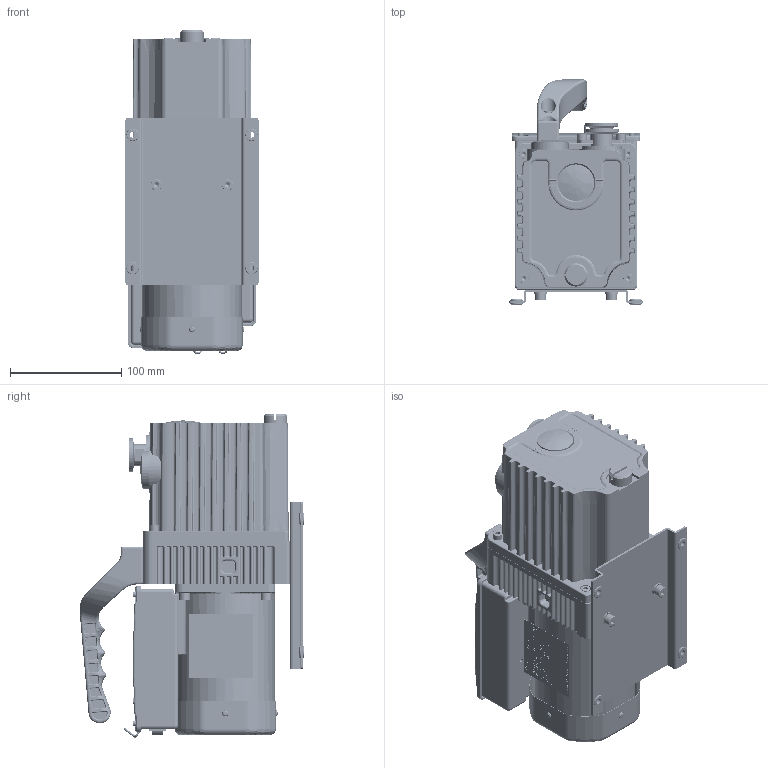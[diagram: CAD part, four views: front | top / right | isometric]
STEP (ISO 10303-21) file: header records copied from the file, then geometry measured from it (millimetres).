
FILE_DESCRIPTION (( 'STEP AP203' ), '1' );
FILE_NAME ('24576.STEP', '2015-06-26T06:47:41', ( '' ), ( '' ), 'SwSTEP 2.0', 'SolidWorks 2014', '' );
FILE_SCHEMA (( 'CONFIG_CONTROL_DESIGN' ));
Length unit declared in the file: millimetre
Products named in the file (26): オイルキャップ_KRM-A3簡易ver_Oリング有り; 俧俫俢-031_僗僾儕儞僌儚僢僔儍乕_M6; ベース_KP-2714-01-022R2; 24539_X3703-27003; 俧俫俢-031_儗儞僠儃儖僩_M3亊16_M3 x 16; 僐儞僨儞僒乕儃僢僋僗妒薨; ケーシング2; 24576; 嘇僴儞僪儖_埬6_150223_寛掕; コンデンサーボックス; GGMモータ; 俧俫俢-031_僗僾儕儞僌儚僢僔儍乕_M5; オイルレベルゲージ(KP-1137-01-001 R0); INLET; 俧俫俢-031_暯儚僢僔儍乕_M5; オイルプラグ_KP-2708-01-031R3; 慜妒薨; ASSI CON TAPPO; グロメット_NG-79-A; 吸気管; KF-16 Exhaust port_20150320; 俧俫俢-031_榋妏寠晅儃儖僩_M5 x 16; 逆支弁押さえ; molletta presa rete; 俧俫俢-031_榋妏寠晅儃儖僩_M6 x 25; ロッカスイッチ
Assembly tree (46 placements, depth 3):
  24576
    ASSI CON TAPPO
      ケーシング2
      GGMモータ
      INLET
      慜妒薨
      吸気管
      逆支弁押さえ
      ロッカスイッチ
      ベース_KP-2714-01-022R2
      僐儞僨儞僒乕儃僢僋僗妒薨
      コンデンサーボックス
      オイルレベルゲージ(KP-1137-01-001 R0)
      オイルプラグ_KP-2708-01-031R3
      グロメット_NG-79-A  x4
      俧俫俢-031_榋妏寠晅儃儖僩_M5 x 16  x8
      俧俫俢-031_榋妏寠晅儃儖僩_M6 x 25  x6
      俧俫俢-031_僗僾儕儞僌儚僢僔儍乕_M6  x2
      俧俫俢-031_儗儞僠儃儖僩_M3亊16_M3 x 16  x4
      嘇僴儞僪儖_埬6_150223_寛掕
      俧俫俢-031_僗僾儕儞僌儚僢僔儍乕_M5  x2
      俧俫俢-031_暯儚僢僔儍乕_M5  x2
    KF-16 Exhaust port_20150320
    molletta presa rete
    オイルキャップ_KRM-A3簡易ver_Oリング有り
    24539_X3703-27003
Bounding box: 120 x 202.51 x 291.44 mm (x, y, z)
Volume: 1995205 mm3; surface area: 467148.4 mm2
Topology: 52 solids, 52 shells, 7848 faces, 20082 edges, 12542 vertices
Faces by surface type: plane 3801, bspline 2012, cylinder 1747, cone 268, torus 16, sphere 4
Entity records: 313203 total; most frequent: CARTESIAN_POINT 142181, ORIENTED_EDGE 37670, DIRECTION 30526, EDGE_CURVE 18835, VERTEX_POINT 11931, LINE 11628, VECTOR 11628, AXIS2_PLACEMENT_3D 9449
